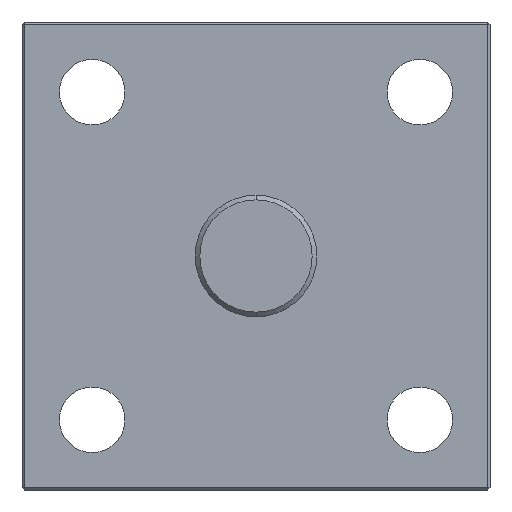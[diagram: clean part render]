
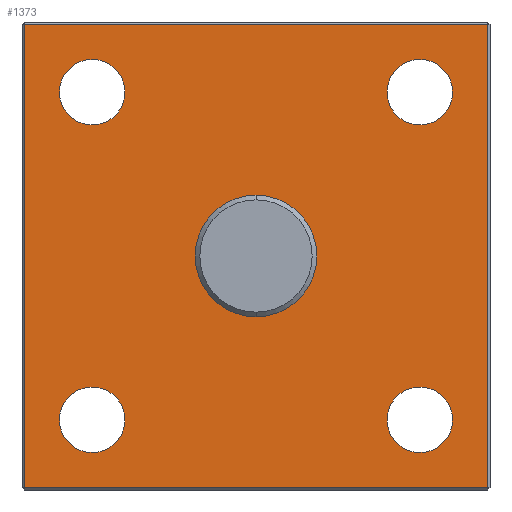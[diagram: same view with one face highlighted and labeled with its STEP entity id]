
A CAD part, left-side view. The second image highlights one B-rep face of the part: STEP entity #1373.
In plain terms, the highlighted planar face has unit normal (-1, 0, 0).
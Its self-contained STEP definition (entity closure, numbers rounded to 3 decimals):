
#8 = FACE_BOUND ( 'NONE', #2274, .T. ) ;
#14 = VERTEX_POINT ( 'NONE', #730 ) ;
#56 = VERTEX_POINT ( 'NONE', #731 ) ;
#94 = EDGE_CURVE ( 'NONE', #1390, #898, #2070, .T. ) ;
#112 = ORIENTED_EDGE ( 'NONE', *, *, #926, .T. ) ;
#113 = ORIENTED_EDGE ( 'NONE', *, *, #974, .T. ) ;
#117 = EDGE_LOOP ( 'NONE', ( #112, #1133 ) ) ;
#197 = VERTEX_POINT ( 'NONE', #1542 ) ;
#216 = CARTESIAN_POINT ( 'NONE',  ( -11., -35., 28. ) ) ;
#262 = AXIS2_PLACEMENT_3D ( 'NONE', #2289, #1924, #2509 ) ;
#274 = DIRECTION ( 'NONE',  ( 0., 1., 0. ) ) ;
#286 = FACE_BOUND ( 'NONE', #849, .T. ) ;
#306 = ORIENTED_EDGE ( 'NONE', *, *, #2090, .T. ) ;
#312 = ORIENTED_EDGE ( 'NONE', *, *, #2454, .T. ) ;
#316 = CIRCLE ( 'NONE', #262, 7. ) ;
#355 = AXIS2_PLACEMENT_3D ( 'NONE', #899, #1518, #403 ) ;
#378 = CIRCLE ( 'NONE', #2246, 13. ) ;
#383 = CARTESIAN_POINT ( 'NONE',  ( -11., -49.5, 0. ) ) ;
#392 = ORIENTED_EDGE ( 'NONE', *, *, #913, .T. ) ;
#403 = DIRECTION ( 'NONE',  ( 0., 0., -1. ) ) ;
#419 = CARTESIAN_POINT ( 'NONE',  ( -11., 0., 49.5 ) ) ;
#430 = FACE_BOUND ( 'NONE', #117, .T. ) ;
#450 = DIRECTION ( 'NONE',  ( 1., 0., 0. ) ) ;
#486 = CARTESIAN_POINT ( 'NONE',  ( -11., 49.5, 0. ) ) ;
#511 = CARTESIAN_POINT ( 'NONE',  ( -11., -49.5, 49.5 ) ) ;
#627 = AXIS2_PLACEMENT_3D ( 'NONE', #2293, #2515, #1328 ) ;
#656 = CARTESIAN_POINT ( 'NONE',  ( -11., 0., 0. ) ) ;
#666 = CIRCLE ( 'NONE', #896, 13. ) ;
#671 = FACE_BOUND ( 'NONE', #1070, .T. ) ;
#722 = CIRCLE ( 'NONE', #2126, 7. ) ;
#730 = CARTESIAN_POINT ( 'NONE',  ( -11., -35., -42. ) ) ;
#731 = CARTESIAN_POINT ( 'NONE',  ( -11., -49.5, -49.5 ) ) ;
#738 = DIRECTION ( 'NONE',  ( 0., 0., -1. ) ) ;
#739 = DIRECTION ( 'NONE',  ( 1., 0., 0. ) ) ;
#757 = CIRCLE ( 'NONE', #1376, 7. ) ;
#762 = CARTESIAN_POINT ( 'NONE',  ( -11., 0., 0. ) ) ;
#779 = CARTESIAN_POINT ( 'NONE',  ( -11., 35., -35. ) ) ;
#801 = PLANE ( 'NONE',  #1089 ) ;
#824 = CARTESIAN_POINT ( 'NONE',  ( -11., 0., 13. ) ) ;
#825 = CIRCLE ( 'NONE', #355, 7. ) ;
#833 = AXIS2_PLACEMENT_3D ( 'NONE', #2061, #739, #2548 ) ;
#849 = EDGE_LOOP ( 'NONE', ( #2464, #1692 ) ) ;
#851 = EDGE_LOOP ( 'NONE', ( #306, #1226 ) ) ;
#859 = ORIENTED_EDGE ( 'NONE', *, *, #864, .T. ) ;
#864 = EDGE_CURVE ( 'NONE', #1060, #2383, #378, .T. ) ;
#883 = DIRECTION ( 'NONE',  ( 1., 0., 0. ) ) ;
#896 = AXIS2_PLACEMENT_3D ( 'NONE', #1622, #1672, #1580 ) ;
#898 = VERTEX_POINT ( 'NONE', #2024 ) ;
#899 = CARTESIAN_POINT ( 'NONE',  ( -11., 35., 35. ) ) ;
#913 = EDGE_CURVE ( 'NONE', #2112, #1969, #2290, .T. ) ;
#926 = EDGE_CURVE ( 'NONE', #898, #1390, #1531, .T. ) ;
#950 = DIRECTION ( 'NONE',  ( 0., 0., -1. ) ) ;
#957 = DIRECTION ( 'NONE',  ( 1., 0., 0. ) ) ;
#974 = EDGE_CURVE ( 'NONE', #1969, #56, #1494, .T. ) ;
#995 = CARTESIAN_POINT ( 'NONE',  ( -11., 0., -13. ) ) ;
#1010 = AXIS2_PLACEMENT_3D ( 'NONE', #1153, #1533, #2472 ) ;
#1060 = VERTEX_POINT ( 'NONE', #824 ) ;
#1066 = ORIENTED_EDGE ( 'NONE', *, *, #1223, .T. ) ;
#1070 = EDGE_LOOP ( 'NONE', ( #1066, #859 ) ) ;
#1089 = AXIS2_PLACEMENT_3D ( 'NONE', #762, #883, #2415 ) ;
#1123 = EDGE_CURVE ( 'NONE', #14, #1272, #2209, .T. ) ;
#1133 = ORIENTED_EDGE ( 'NONE', *, *, #94, .T. ) ;
#1153 = CARTESIAN_POINT ( 'NONE',  ( -11., -35., -35. ) ) ;
#1168 = FACE_OUTER_BOUND ( 'NONE', #1818, .T. ) ;
#1169 = CARTESIAN_POINT ( 'NONE',  ( -11., 35., -28. ) ) ;
#1208 = DIRECTION ( 'NONE',  ( 0., 0., -1. ) ) ;
#1216 = CARTESIAN_POINT ( 'NONE',  ( -11., -35., 42. ) ) ;
#1223 = EDGE_CURVE ( 'NONE', #2383, #1060, #666, .T. ) ;
#1226 = ORIENTED_EDGE ( 'NONE', *, *, #1559, .T. ) ;
#1249 = AXIS2_PLACEMENT_3D ( 'NONE', #779, #2503, #950 ) ;
#1254 = CARTESIAN_POINT ( 'NONE',  ( -11., 49.5, 49.5 ) ) ;
#1265 = ORIENTED_EDGE ( 'NONE', *, *, #2402, .T. ) ;
#1272 = VERTEX_POINT ( 'NONE', #1459 ) ;
#1328 = DIRECTION ( 'NONE',  ( 0., 0., -1. ) ) ;
#1337 = CARTESIAN_POINT ( 'NONE',  ( -11., 35., 42. ) ) ;
#1353 = VERTEX_POINT ( 'NONE', #1337 ) ;
#1371 = CARTESIAN_POINT ( 'NONE',  ( -11., 0., -49.5 ) ) ;
#1373 = ADVANCED_FACE ( 'NONE', ( #1168, #671, #8, #2302, #286, #430 ), #801, .F. ) ;
#1374 = VECTOR ( 'NONE', #2331, 1000. ) ;
#1376 = AXIS2_PLACEMENT_3D ( 'NONE', #1875, #957, #738 ) ;
#1390 = VERTEX_POINT ( 'NONE', #1169 ) ;
#1459 = CARTESIAN_POINT ( 'NONE',  ( -11., -35., -28. ) ) ;
#1494 = LINE ( 'NONE', #1371, #1374 ) ;
#1518 = DIRECTION ( 'NONE',  ( 1., 0., 0. ) ) ;
#1531 = CIRCLE ( 'NONE', #833, 7. ) ;
#1533 = DIRECTION ( 'NONE',  ( 1., 0., 0. ) ) ;
#1542 = CARTESIAN_POINT ( 'NONE',  ( -11., 35., 28. ) ) ;
#1559 = EDGE_CURVE ( 'NONE', #2232, #1984, #722, .T. ) ;
#1575 = EDGE_CURVE ( 'NONE', #56, #1741, #2264, .T. ) ;
#1580 = DIRECTION ( 'NONE',  ( 0., 0., -1. ) ) ;
#1622 = CARTESIAN_POINT ( 'NONE',  ( -11., 0., 0. ) ) ;
#1672 = DIRECTION ( 'NONE',  ( 1., 0., 0. ) ) ;
#1692 = ORIENTED_EDGE ( 'NONE', *, *, #1983, .T. ) ;
#1741 = VERTEX_POINT ( 'NONE', #511 ) ;
#1818 = EDGE_LOOP ( 'NONE', ( #392, #113, #2458, #312 ) ) ;
#1863 = EDGE_CURVE ( 'NONE', #197, #1353, #825, .T. ) ;
#1875 = CARTESIAN_POINT ( 'NONE',  ( -11., 35., 35. ) ) ;
#1924 = DIRECTION ( 'NONE',  ( 1., 0., 0. ) ) ;
#1958 = LINE ( 'NONE', #419, #2523 ) ;
#1969 = VERTEX_POINT ( 'NONE', #2323 ) ;
#1983 = EDGE_CURVE ( 'NONE', #1353, #197, #757, .T. ) ;
#1984 = VERTEX_POINT ( 'NONE', #216 ) ;
#1986 = CARTESIAN_POINT ( 'NONE',  ( -11., -35., 35. ) ) ;
#2024 = CARTESIAN_POINT ( 'NONE',  ( -11., 35., -42. ) ) ;
#2061 = CARTESIAN_POINT ( 'NONE',  ( -11., 35., -35. ) ) ;
#2070 = CIRCLE ( 'NONE', #1249, 7. ) ;
#2090 = EDGE_CURVE ( 'NONE', #1984, #2232, #2554, .T. ) ;
#2107 = DIRECTION ( 'NONE',  ( 0., 0., 1. ) ) ;
#2112 = VERTEX_POINT ( 'NONE', #1254 ) ;
#2126 = AXIS2_PLACEMENT_3D ( 'NONE', #1986, #450, #2210 ) ;
#2169 = DIRECTION ( 'NONE',  ( 0., 0., -1. ) ) ;
#2209 = CIRCLE ( 'NONE', #1010, 7. ) ;
#2210 = DIRECTION ( 'NONE',  ( 0., 0., -1. ) ) ;
#2222 = DIRECTION ( 'NONE',  ( 1., 0., 0. ) ) ;
#2232 = VERTEX_POINT ( 'NONE', #1216 ) ;
#2246 = AXIS2_PLACEMENT_3D ( 'NONE', #656, #2222, #1208 ) ;
#2264 = LINE ( 'NONE', #383, #2271 ) ;
#2271 = VECTOR ( 'NONE', #2107, 1000. ) ;
#2274 = EDGE_LOOP ( 'NONE', ( #2392, #1265 ) ) ;
#2289 = CARTESIAN_POINT ( 'NONE',  ( -11., -35., -35. ) ) ;
#2290 = LINE ( 'NONE', #486, #2502 ) ;
#2293 = CARTESIAN_POINT ( 'NONE',  ( -11., -35., 35. ) ) ;
#2302 = FACE_BOUND ( 'NONE', #851, .T. ) ;
#2323 = CARTESIAN_POINT ( 'NONE',  ( -11., 49.5, -49.5 ) ) ;
#2331 = DIRECTION ( 'NONE',  ( 0., -1., 0. ) ) ;
#2383 = VERTEX_POINT ( 'NONE', #995 ) ;
#2392 = ORIENTED_EDGE ( 'NONE', *, *, #1123, .T. ) ;
#2402 = EDGE_CURVE ( 'NONE', #1272, #14, #316, .T. ) ;
#2415 = DIRECTION ( 'NONE',  ( 0., 0., -1. ) ) ;
#2454 = EDGE_CURVE ( 'NONE', #1741, #2112, #1958, .T. ) ;
#2458 = ORIENTED_EDGE ( 'NONE', *, *, #1575, .T. ) ;
#2464 = ORIENTED_EDGE ( 'NONE', *, *, #1863, .T. ) ;
#2472 = DIRECTION ( 'NONE',  ( 0., 0., -1. ) ) ;
#2502 = VECTOR ( 'NONE', #2169, 1000. ) ;
#2503 = DIRECTION ( 'NONE',  ( 1., 0., 0. ) ) ;
#2509 = DIRECTION ( 'NONE',  ( 0., 0., -1. ) ) ;
#2515 = DIRECTION ( 'NONE',  ( 1., 0., 0. ) ) ;
#2523 = VECTOR ( 'NONE', #274, 1000. ) ;
#2548 = DIRECTION ( 'NONE',  ( 0., 0., -1. ) ) ;
#2554 = CIRCLE ( 'NONE', #627, 7. ) ;
